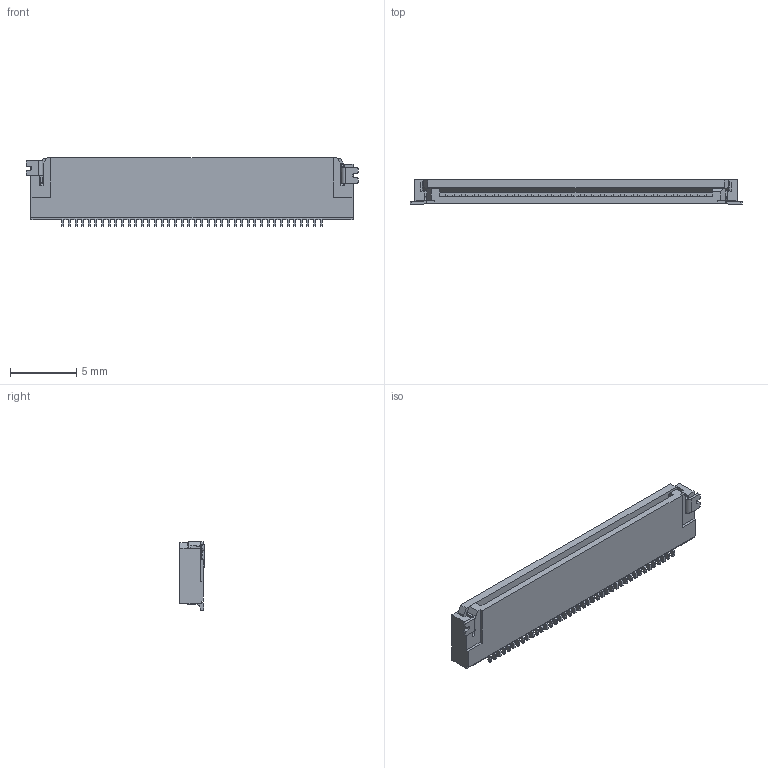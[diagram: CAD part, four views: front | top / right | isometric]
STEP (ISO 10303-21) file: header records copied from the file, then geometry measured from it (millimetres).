
FILE_DESCRIPTION((''),'2;1');
FILE_NAME('ASM0001_ASM','2016-03-16T',('k06399'),(''),'PRO/ENGINEER BY PARAMETRIC TECHNOLOGY CORPORATION, 2009360','PRO/ENGINEER BY PARAMETRIC TECHNOLOGY CORPORATION, 2009360','');
FILE_SCHEMA(('CONFIG_CONTROL_DESIGN'));
Length unit declared in the file: millimetre
Products named in the file (4): S-51540-040XX-XXX; 51586-T1; 51586-T-L; ASM0001_ASM
Assembly tree (3 placements, depth 2):
  ASM0001_ASM
    S-51540-040XX-XXX
    51586-T1
    51586-T-L
Bounding box: 25.05 x 1.83 x 5.2 mm (x, y, z)
Volume: 147.6 mm3; surface area: 609.7 mm2
Topology: 3 solids, 3 shells, 1707 faces, 5683 edges, 4026 vertices
Faces by surface type: plane 1129, cylinder 574, torus 4
Entity records: 63862 total; most frequent: CARTESIAN_POINT 11838, ORIENTED_EDGE 11366, DIRECTION 10951, EDGE_CURVE 5683, VERTEX_POINT 4026, AXIS2_PLACEMENT_3D 3656, VECTOR 3639, LINE 3639
